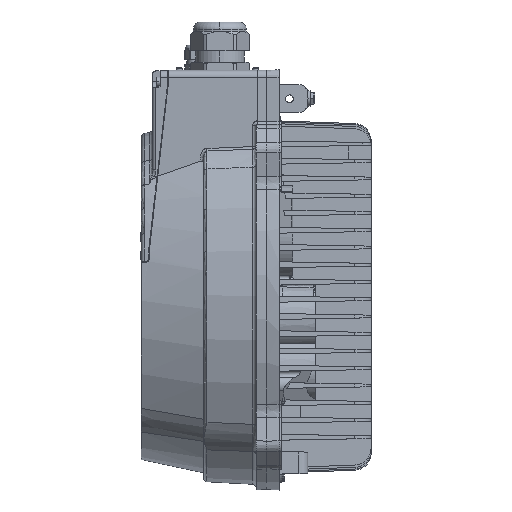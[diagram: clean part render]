
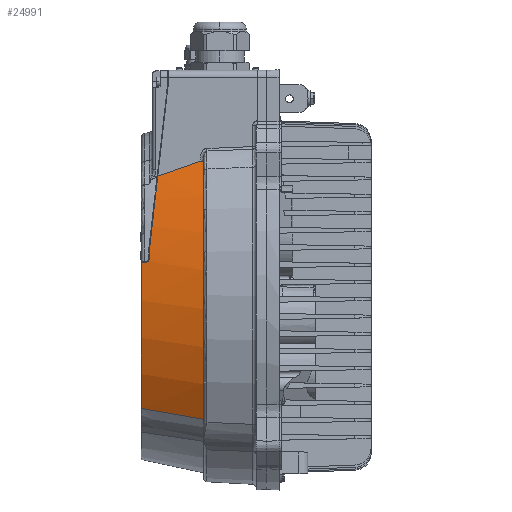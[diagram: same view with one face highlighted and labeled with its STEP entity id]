
A CAD part, left-side view. The second image highlights one B-rep face of the part: STEP entity #24991.
In plain terms, the highlighted conical face has half-angle 12 degrees and reference radius 214.208 mm.
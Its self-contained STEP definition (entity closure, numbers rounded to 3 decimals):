
#469=CARTESIAN_POINT('',(67.,50.5,0.));
#470=DIRECTION('',(0.,1.,0.));
#471=DIRECTION('',(-0.875,0.,-0.484));
#472=AXIS2_PLACEMENT_3D('',#469,#470,#471);
#608=CARTESIAN_POINT('',(67.,98.,0.));
#609=DIRECTION('',(0.,-1.,0.));
#610=DIRECTION('',(-0.983,0.,0.184));
#611=AXIS2_PLACEMENT_3D('',#608,#609,#610);
#1664=CARTESIAN_POINT('',(-139.286,104.942,29.805));
#1665=CARTESIAN_POINT('',(-139.391,104.424,29.85));
#1666=CARTESIAN_POINT('',(-139.6,103.388,29.941));
#1667=CARTESIAN_POINT('',(-139.914,101.835,30.077));
#1668=CARTESIAN_POINT('',(-140.123,100.8,30.167));
#1669=CARTESIAN_POINT('',(-140.228,100.282,30.213));
#1671=CARTESIAN_POINT('',(-140.228,100.282,30.213));
#1672=CARTESIAN_POINT('',(-140.292,99.965,30.24));
#1673=CARTESIAN_POINT('',(-140.398,99.35,30.418));
#1674=CARTESIAN_POINT('',(-140.474,98.61,30.982));
#1675=CARTESIAN_POINT('',(-140.46,98.116,31.777));
#1676=CARTESIAN_POINT('',(-140.389,98.,32.394));
#1677=CARTESIAN_POINT('',(-140.34,98.,32.703));
#1679=CARTESIAN_POINT('',(-139.324,98.,38.6));
#1680=CARTESIAN_POINT('',(-135.531,95.348,61.938));
#1681=CARTESIAN_POINT('',(-127.995,92.839,84.014));
#1682=CARTESIAN_POINT('',(-116.701,90.475,104.822));
#1684=CARTESIAN_POINT('',(-116.701,90.475,104.821));
#1685=CARTESIAN_POINT('',(-116.844,86.39,106.323));
#1686=CARTESIAN_POINT('',(-117.131,78.172,109.3));
#1687=CARTESIAN_POINT('',(-117.566,65.707,113.705));
#1688=CARTESIAN_POINT('',(-117.859,57.304,116.593));
#1689=CARTESIAN_POINT('',(-118.007,53.081,118.031));
#1691=CARTESIAN_POINT('',(-118.007,53.081,118.031));
#1692=CARTESIAN_POINT('',(-118.011,52.961,118.072));
#1693=CARTESIAN_POINT('',(-118.035,52.72,118.13));
#1694=CARTESIAN_POINT('',(-118.114,52.364,118.147));
#1695=CARTESIAN_POINT('',(-118.239,51.994,118.098));
#1696=CARTESIAN_POINT('',(-118.405,51.627,117.982));
#1697=CARTESIAN_POINT('',(-118.614,51.257,117.799));
#1698=CARTESIAN_POINT('',(-118.866,50.885,117.55));
#1699=CARTESIAN_POINT('',(-119.066,50.629,117.335));
#1700=CARTESIAN_POINT('',(-119.173,50.5,117.216));
#1702=CARTESIAN_POINT('',(-139.371,105.,29.124));
#1703=CARTESIAN_POINT('',(-139.36,105.,29.2));
#1704=CARTESIAN_POINT('',(-139.339,104.996,29.352));
#1705=CARTESIAN_POINT('',(-139.311,104.976,29.579));
#1706=CARTESIAN_POINT('',(-139.294,104.955,29.73));
#1707=CARTESIAN_POINT('',(-139.286,104.942,29.805));
#4773=CARTESIAN_POINT('',(67.,105.,0.));
#4774=DIRECTION('',(0.,-1.,0.));
#4775=DIRECTION('',(-0.99,0.,0.14));
#4776=AXIS2_PLACEMENT_3D('',#4773,#4774,#4775);
#4791=CARTESIAN_POINT('',(-117.493,105.,
-96.95));
#4792=CARTESIAN_POINT('',(-118.373,99.058,
-97.992));
#4793=CARTESIAN_POINT('',(-120.142,87.099,
-100.081));
#4794=CARTESIAN_POINT('',(-122.83,68.932,
-103.232));
#4795=CARTESIAN_POINT('',(-124.644,56.669,
-105.345));
#4796=CARTESIAN_POINT('',(-125.557,50.5,
-106.405));
#20425=CARTESIAN_POINT('',(-139.286,104.942,
29.805));
#20426=VERTEX_POINT('',#20425);
#20427=CARTESIAN_POINT('',(-139.371,105.,29.124));
#20428=VERTEX_POINT('',#20427);
#20431=VERTEX_POINT('',#1669);
#20435=VERTEX_POINT('',#1677);
#20441=CARTESIAN_POINT('',(-139.324,98.,
38.6));
#20442=VERTEX_POINT('',#20441);
#20443=VERTEX_POINT('',#1684);
#20444=VERTEX_POINT('',#1689);
#20457=VERTEX_POINT('',#1700);
#20461=CARTESIAN_POINT('',(-125.557,50.5,
-106.405));
#20462=VERTEX_POINT('',#20461);
#20463=CARTESIAN_POINT('',(-117.493,105.,-96.95));
#20464=VERTEX_POINT('',#20463);
#24969=CARTESIAN_POINT('',(67.,77.75,0.));
#24970=DIRECTION('',(0.,-1.,0.));
#24971=DIRECTION('',(1.,0.,0.));
#24972=AXIS2_PLACEMENT_3D('',#24969,#24970,#24971);
#24973=CONICAL_SURFACE('',#24972,214.208,12.);
#24975=ORIENTED_EDGE('',*,*,#24974,.T.);
#24977=ORIENTED_EDGE('',*,*,#24976,.T.);
#24978=ORIENTED_EDGE('',*,*,#23206,.F.);
#24979=ORIENTED_EDGE('',*,*,#23336,.T.);
#24980=ORIENTED_EDGE('',*,*,#24849,.T.);
#24981=ORIENTED_EDGE('',*,*,#24958,.T.);
#24982=ORIENTED_EDGE('',*,*,#23099,.F.);
#24984=ORIENTED_EDGE('',*,*,#24983,.F.);
#24986=ORIENTED_EDGE('',*,*,#24985,.F.);
#24988=ORIENTED_EDGE('',*,*,#24987,.T.);
#24989=EDGE_LOOP('',(#24975,#24977,#24978,#24979,#24980,#24981,#24982,#24984,
#24986,#24988));
#24990=FACE_OUTER_BOUND('',#24989,.F.);
#24991=ADVANCED_FACE('',(#24990),#24973,.T.);
#473=CIRCLE('',#472,220.);
#612=CIRCLE('',#611,209.904);
#1670=B_SPLINE_CURVE_WITH_KNOTS('',3,(#1664,#1665,#1666,#1667,#1668,#1669),
.UNSPECIFIED.,.F.,.F.,(4,1,1,4),(0.,0.333,0.667,1.),
.UNSPECIFIED.);
#1678=B_SPLINE_CURVE_WITH_KNOTS('',3,(#1671,#1672,#1673,#1674,#1675,#1676,
#1677),.UNSPECIFIED.,.F.,.F.,(4,1,1,1,4),(0.,0.25,0.5,0.75,1.),
.UNSPECIFIED.);
#1683=B_SPLINE_CURVE_WITH_KNOTS('',3,(#1679,#1680,#1681,#1682),.UNSPECIFIED.,
.F.,.F.,(4,4),(0.,1.),.UNSPECIFIED.);
#1690=B_SPLINE_CURVE_WITH_KNOTS('',3,(#1684,#1685,#1686,#1687,#1688,#1689),
.UNSPECIFIED.,.F.,.F.,(4,1,1,4),(0.,0.333,0.667,1.),
.UNSPECIFIED.);
#1701=B_SPLINE_CURVE_WITH_KNOTS('',3,(#1691,#1692,#1693,#1694,#1695,#1696,#1697,
#1698,#1699,#1700),.UNSPECIFIED.,.F.,.F.,(4,1,1,1,1,1,1,4),(0.,
0.143,0.286,0.429,0.571,
0.714,0.857,1.),.UNSPECIFIED.);
#1708=B_SPLINE_CURVE_WITH_KNOTS('',3,(#1702,#1703,#1704,#1705,#1706,#1707),
.UNSPECIFIED.,.F.,.F.,(4,1,1,4),(0.,0.333,0.667,1.),
.UNSPECIFIED.);
#4777=CIRCLE('',#4776,208.416);
#4797=B_SPLINE_CURVE_WITH_KNOTS('',3,(#4791,#4792,#4793,#4794,#4795,#4796),
.UNSPECIFIED.,.F.,.F.,(4,1,1,4),(0.,0.333,0.667,1.),
.UNSPECIFIED.);
#23099=EDGE_CURVE('',#20462,#20457,#473,.T.);
#23206=EDGE_CURVE('',#20442,#20435,#612,.T.);
#23336=EDGE_CURVE('',#20442,#20443,#1683,.T.);
#24849=EDGE_CURVE('',#20443,#20444,#1690,.T.);
#24958=EDGE_CURVE('',#20444,#20457,#1701,.T.);
#24974=EDGE_CURVE('',#20426,#20431,#1670,.T.);
#24976=EDGE_CURVE('',#20431,#20435,#1678,.T.);
#24983=EDGE_CURVE('',#20464,#20462,#4797,.T.);
#24985=EDGE_CURVE('',#20428,#20464,#4777,.T.);
#24987=EDGE_CURVE('',#20428,#20426,#1708,.T.);
